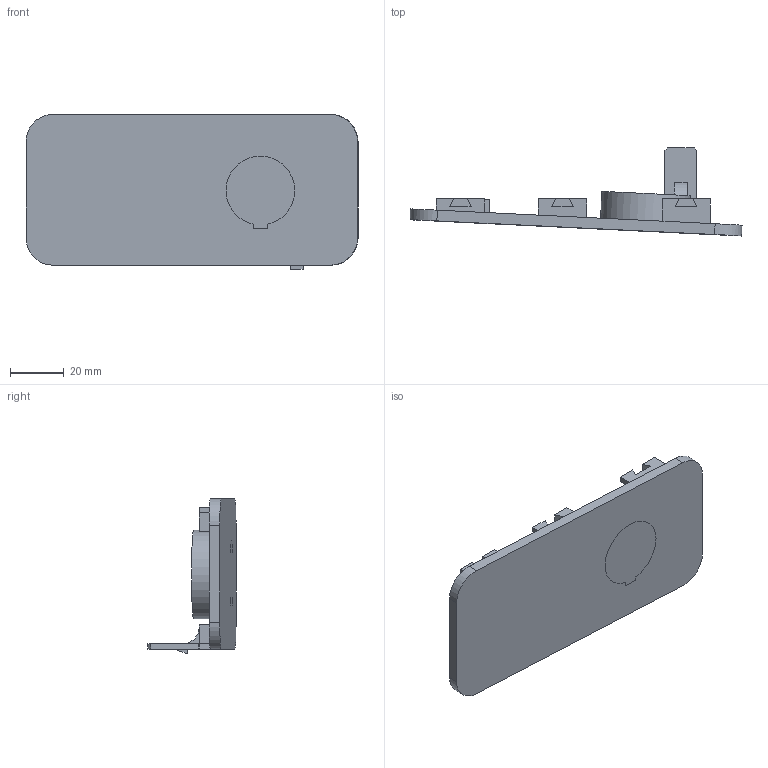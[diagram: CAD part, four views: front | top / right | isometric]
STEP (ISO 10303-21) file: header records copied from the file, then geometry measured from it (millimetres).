
FILE_DESCRIPTION(/* description */ (''),/* implementation_level */ '2;1');
FILE_NAME(/* name */ 'Panel with stock 12V tool body.step',/* time_stamp */ '2025-11-18T18:53:44-05:00',/* author */ (''),/* organization */ (''),/* preprocessor_version */ 'ST-DEVELOPER v20.1',/* originating_system */ 'Autodesk Translation Framework v14.21.0.0',/* authorisation */ '');
FILE_SCHEMA (('AUTOMOTIVE_DESIGN { 1 0 10303 214 3 1 1 }'));
Length unit declared in the file: millimetre
Products named in the file (1): Rav4 Trunk Panel
Bounding box: 123.45 x 32.74 x 57.6 mm (x, y, z)
Volume: 43087.1 mm3; surface area: 21498.2 mm2
Topology: 3 solids, 3 shells, 118 faces, 318 edges, 211 vertices
Faces by surface type: plane 111, cylinder 7
Full cylindrical faces by diameter (mm): 33 x1
Entity records: 3663 total; most frequent: CARTESIAN_POINT 648, ORIENTED_EDGE 636, DIRECTION 570, EDGE_CURVE 318, LINE 304, VECTOR 304, VERTEX_POINT 211, AXIS2_PLACEMENT_3D 133
